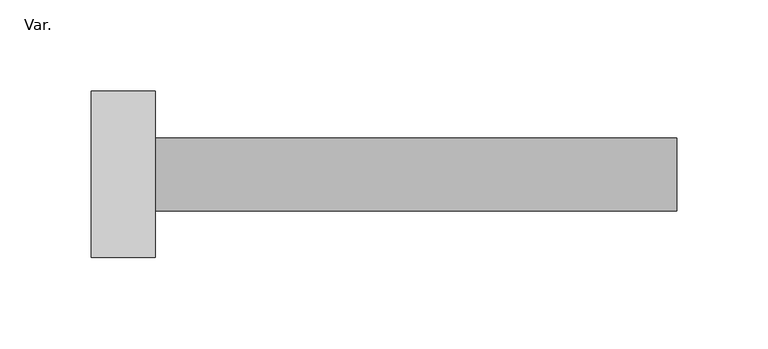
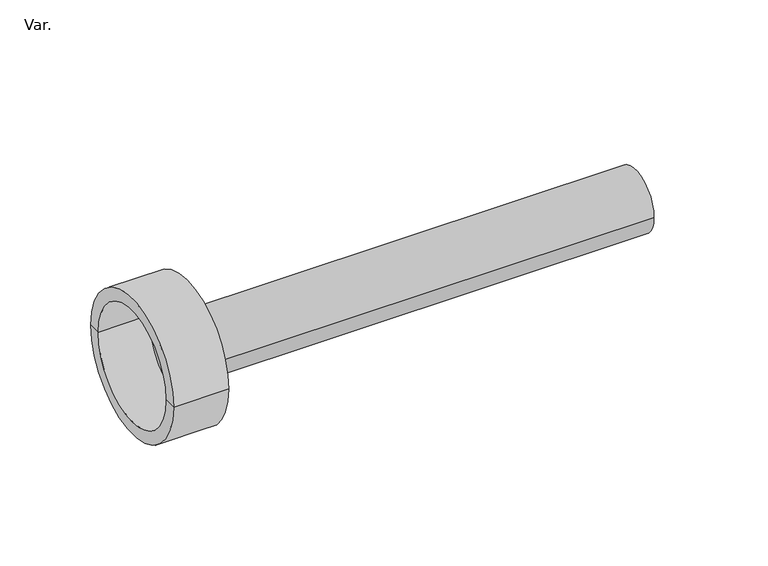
"""IFC4 building model written with IfcOpenShell, lengths in millimetres: pipe fitting geometry, Z_PAVCO_PVC QS_Outlet Connector (nested) : Var.."""

from ifc_helpers import new_model, si_unit, point, frame, origin, origin_2d, place, context, project, spatial, polyline, circle_curve, trimmed, segment, composite_curve, outline, extrude, source, transform, mapped, element, save
from ifc_brep_helpers import plane_surface, cylinder_surface, revolved_surface, advanced_brep


def var_aaa3e498(model_context):
    return source(origin(), model_context, "Body", "SolidModel", [
        extrude(outline(composite_curve([segment(trimmed(circle_curve(origin_2d(), 20.0), [point((-20.0, 0.0))], [point((20.0, 0.0))], False, "CARTESIAN"), True, "CONTINUOUS"), segment(trimmed(circle_curve(origin_2d(), 20.0), [point((20.0, 0.0))], [point((-20.0, 0.0))], False, "CARTESIAN"), True, "CONTINUOUS")], self_intersect=False)), frame((0.0, 0.0, 0.0), z_axis=(1.0, 0.0, 0.0), x_axis=(0.0, 1.0, 0.0)), (0.0, 0.0, 1.0), 288.0),
        advanced_brep(
        [(-32.0, 37.5, 0.0), (-32.0, -37.5, 0.0), (0.0, -37.5, 0.0), (0.0, 37.5, 0.0), (-32.0, 45.5, 0.0), (-32.0, -45.5, 0.0), (3.0, 45.5, 0.0), (3.0, -45.5, 0.0), (3.0, 0.0, 0.0), (0.0, 0.0, 0.0)],
        [
            (0, 1, circle_curve(frame((-32.0, 0.0, 0.0), z_axis=(-1.0, 0.0, 0.0), x_axis=(0.0, -1.0, 0.0)), 37.5)),
            (1, 2),
            (2, 3, circle_curve(frame((0.0, 0.0, 0.0), z_axis=(1.0, 0.0, 0.0), x_axis=(0.0, -1.0, 0.0)), 37.5)),
            (3, 0),
            (1, 0, circle_curve(frame((-32.0, 0.0, 0.0), z_axis=(-1.0, 0.0, 0.0), x_axis=(0.0, -1.0, 0.0)), 37.5)),
            (3, 2, circle_curve(frame((0.0, 0.0, 0.0), z_axis=(1.0, 0.0, 0.0), x_axis=(0.0, -1.0, 0.0)), 37.5)),
            (4, 5, circle_curve(frame((-32.0, 0.0, 0.0), z_axis=(-1.0, 0.0, 0.0), x_axis=(0.0, -1.0, 0.0)), 45.5)),
            (5, 1),
            (0, 4),
            (5, 4, circle_curve(frame((-32.0, 0.0, 0.0), z_axis=(-1.0, 0.0, 0.0), x_axis=(0.0, -1.0, 0.0)), 45.5)),
            (6, 7, circle_curve(frame((3.0, 0.0, 0.0), z_axis=(-1.0, 0.0, 0.0), x_axis=(0.0, -1.0, 0.0)), 45.5)),
            (7, 5),
            (4, 6),
            (7, 6, circle_curve(frame((3.0, 0.0, 0.0), z_axis=(-1.0, 0.0, 0.0), x_axis=(0.0, -1.0, 0.0)), 45.5)),
            (8, 7),
            (6, 8),
            (2, 9),
            (9, 3),
        ],
        [
            revolved_surface(polyline([(0.0, -37.5, 0.0), (-32.0, -37.5, 0.0)]), (0.0, 0.0, 0.0), (1.0, 0.0, 0.0)),
            plane_surface(frame((-32.0, 0.0, 0.0), z_axis=(-1.0, 0.0, 0.0), x_axis=(0.0, -1.0, 0.0))),
            cylinder_surface(frame((0.0, 0.0, 0.0), z_axis=(1.0, 0.0, 0.0), x_axis=(0.0, -1.0, 0.0)), 45.5),
            plane_surface(frame((3.0, 0.0, 0.0), z_axis=(1.0, 0.0, 0.0), x_axis=(0.0, -1.0, 0.0))),
            plane_surface(frame((0.0, 0.0, 0.0), z_axis=(-1.0, 0.0, 0.0), x_axis=(0.0, -1.0, 0.0))),
        ],
        [
            (0, [[1, 2, 3, 4]]),
            (0, [[5, -4, 6, -2]]),
            (1, [[7, 8, -1, 9]]),
            (1, [[10, -9, -5, -8]]),
            (2, [[11, 12, -7, 13]]),
            (2, [[14, -13, -10, -12]]),
            (3, [[15, -11, 16]]),
            (3, [[-16, -14, -15]]),
            (4, [[-3, 17, 18]]),
            (4, [[-6, -18, -17]]),
        ],
    ),
    ])


if __name__ == "__main__":
    model = new_model("IFC4")
    model_context = context("Model", 3, world=origin())
    ifc_project = project(units=[si_unit("LENGTHUNIT", "METRE", prefix="MILLI")], contexts=[model_context])
    site = spatial("IfcSite", under=ifc_project)
    building = spatial("IfcBuilding", under=site)
    placement = place(None, origin())
    var_shape = var_aaa3e498(model_context)
    element("IfcPipeFitting", 1, ObjectType="Z_PAVCO_PVC QS_Outlet Connector (nested) : Var.", at=placement, inside=building, context=model_context, shape_type="MappedRepresentation", body=[
        mapped(var_shape, transform((0.0, 0.0, 0.0), x_axis=(1.0, 0.0, 0.0), y_axis=(0.0, 1.0, 0.0), z_axis=(0.0, 0.0, 1.0))),
    ])
    save(model, "model.ifc")
